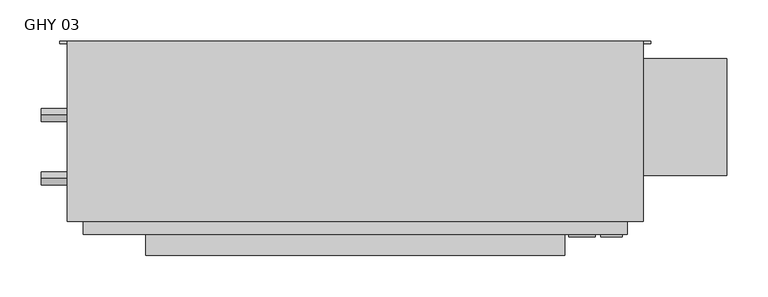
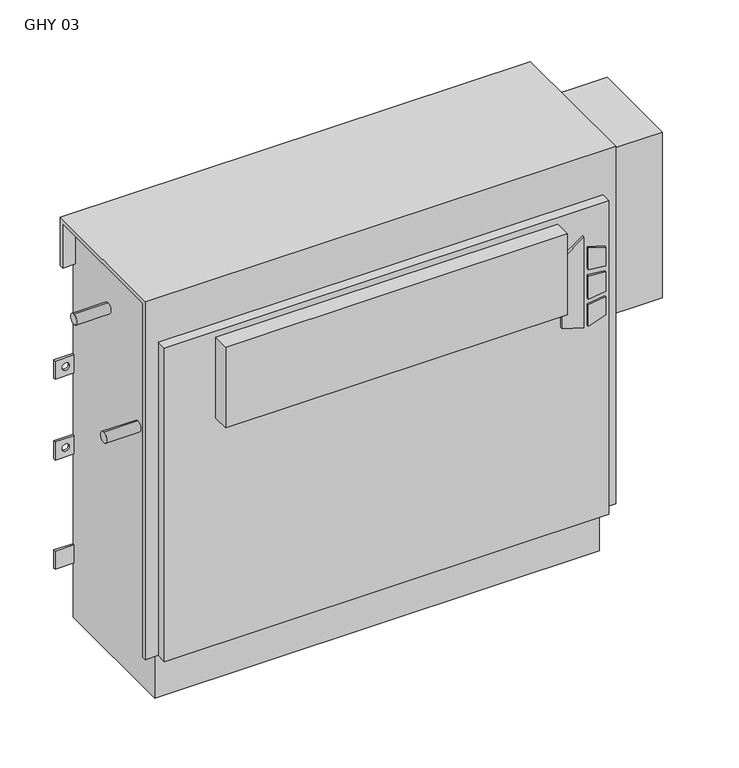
"""IFC4 building model written with IfcOpenShell, lengths in millimetres: proxy geometry, Vertical_Fan_Coil_Unit_-_GHY_-_IEC_-_2-Pipe_FS-FR_LH_2022 : GHY 03."""

from ifc_helpers import new_model, si_unit, point, frame, frame_2d, origin, place, context, project, spatial, polyline, circle_curve, trimmed, segment, composite_curve, outline, extrude, source, transform, mapped, element, save
from ifc_brep_helpers import plane_surface, revolved_surface, advanced_brep


def ghy_03_b27926b6(model_context):
    return source(origin(), model_context, "Body", "SolidModel", [
        extrude(outline(polyline([(391.6086829, 411.2368862), (381.6606126, 443.4102728), (523.831537, 443.4102728), (500.8095309, 411.2368862), (391.6086829, 411.2368862)])), frame((0.0, 6.35, 0.0), z_axis=(0.0, 1.0, 0.0), x_axis=(0.0, 0.0, 1.0)), (0.0, 0.0, 1.0), 3.175),
        extrude(outline(polyline([(470.6079683, 450.1686058), (467.4055757, 476.25), (496.6344168, 476.25), (504.6988318, 450.1686058), (470.6079683, 450.1686058)])), frame((0.0, 6.35, 0.0), z_axis=(0.0, 1.0, 0.0), x_axis=(0.0, 0.0, 1.0)), (0.0, 0.0, 1.0), 3.175),
        extrude(outline(polyline([(418.7444414, 476.25), (415.0789404, 450.1686058), (381.6606126, 450.1686058), (390.2948498, 476.25), (418.7444414, 476.25)])), frame((0.0, 6.35, 0.0), z_axis=(0.0, 1.0, 0.0), x_axis=(0.0, 0.0, 1.0)), (0.0, 0.0, 1.0), 3.175),
        extrude(outline(polyline([(458.0596028, 476.25), (460.3414292, 450.1686058), (424.4038806, 450.1686058), (427.1451456, 476.25), (458.0596028, 476.25)])), frame((0.0, 6.35, 0.0), z_axis=(0.0, 1.0, 0.0), x_axis=(0.0, 0.0, 1.0)), (0.0, 0.0, 1.0), 3.175),
        extrude(outline(polyline([(406.4, -15.875), (-101.6, -15.875), (-101.6, 9.525), (406.4, 9.525), (406.4, -15.875)])), frame((0.0, 0.0, 428.625), z_axis=(0.0, 0.0, 1.0), x_axis=(1.0, 0.0, 0.0)), (0.0, 0.0, 1.0), 127.0),
        extrude(outline(composite_curve([segment(trimmed(circle_curve(frame_2d((77.597, 401.574)), 7.9375), [point((77.597, 409.5115))], [point((77.597, 393.6365))], False, "CARTESIAN"), True, "CONTINUOUS"), segment(trimmed(circle_curve(frame_2d((77.597, 401.574)), 7.9375), [point((77.597, 393.6365))], [point((77.597, 409.5115))], False, "CARTESIAN"), True, "CONTINUOUS")], self_intersect=False)), frame((-228.6, 0.0, 0.0), z_axis=(1.0, 0.0, 0.0), x_axis=(0.0, 1.0, 0.0)), (0.0, 0.0, 1.0), 50.8),
        extrude(outline(composite_curve([segment(trimmed(circle_curve(frame_2d((154.559, 540.512)), 7.9375), [point((154.559, 548.4495))], [point((154.559, 532.5745))], False, "CARTESIAN"), True, "CONTINUOUS"), segment(trimmed(circle_curve(frame_2d((154.559, 540.512)), 7.9375), [point((154.559, 532.5745))], [point((154.559, 548.4495))], False, "CARTESIAN"), True, "CONTINUOUS")], self_intersect=False)), frame((-228.6, 0.0, 0.0), z_axis=(1.0, 0.0, 0.0), x_axis=(0.0, 1.0, 0.0)), (0.0, 0.0, 1.0), 50.8),
        extrude(outline(polyline([(603.25, 223.266), (603.25, 81.534), (482.6, 81.534), (482.6, 223.266), (603.25, 223.266)])), frame((0.0, 0.0, 327.025), z_axis=(0.0, 0.0, 1.0), x_axis=(1.0, 0.0, 0.0)), (0.0, 0.0, 1.0), 260.35),
        advanced_brep(
        [(501.65, 244.475, 635.0), (-196.85, 244.475, 635.0), (-196.85, 25.4, 635.0), (501.65, 25.4, 635.0), (-177.8, 244.475, 0.0), (482.6, 244.475, 0.0), (482.6, 34.925, 0.0), (-177.8, 34.925, 0.0), (501.65, 244.475, 558.8), (482.6, 244.475, 558.8), (482.6, 244.475, 414.3375), (511.175, 244.475, 414.3375), (511.175, 244.475, 385.7625), (482.6, 244.475, 385.7625), (482.6, 244.475, 287.3375), (511.175, 244.475, 287.3375), (511.175, 244.475, 258.7625), (482.6, 244.475, 258.7625), (482.6, 244.475, 141.2875), (511.175, 244.475, 141.2875), (511.175, 244.475, 112.7125), (482.6, 244.475, 112.7125), (-177.8, 244.475, 87.3125), (-206.375, 244.475, 87.3125), (-206.375, 244.475, 115.8875), (-177.8, 244.475, 115.8875), (-177.8, 244.475, 258.7625), (-206.375, 244.475, 258.7625), (-206.375, 244.475, 287.3375), (-177.8, 244.475, 287.3375), (-177.8, 244.475, 385.7625), (-206.375, 244.475, 385.7625), (-206.375, 244.475, 414.3375), (-177.8, 244.475, 414.3375), (-177.8, 244.475, 558.8), (-196.85, 244.475, 558.8), (500.8626, 244.475, 127.0), (489.7374, 244.475, 127.0), (500.8626, 244.475, 273.05), (489.7374, 244.475, 273.05), (-184.9374, 244.475, 273.05), (-196.0626, 244.475, 273.05), (500.8626, 244.475, 400.05), (489.7374, 244.475, 400.05), (-184.9374, 244.475, 400.05), (-196.0626, 244.475, 400.05), (-196.85, 238.125, 558.8), (-196.85, 238.125, 628.65), (-196.85, 31.75, 628.65), (-196.85, 31.75, 73.025), (-196.85, 25.4, 73.025), (482.6, 9.525, 565.15), (-177.8, 9.525, 565.15), (-177.8, 9.525, 73.025), (482.6, 9.525, 73.025), (501.65, 25.4, 73.025), (501.65, 31.75, 73.025), (501.65, 31.75, 628.65), (501.65, 238.125, 628.65), (501.65, 238.125, 558.8), (-177.8, 25.4, 73.025), (-177.8, 25.4, 565.15), (482.6, 25.4, 565.15), (482.6, 25.4, 73.025), (-177.8, 31.75, 73.025), (-177.8, 34.925, 73.025), (482.6, 34.925, 73.025), (482.6, 31.75, 73.025), (482.6, 241.3, 112.7125), (482.6, 241.3, 141.2875), (482.6, 241.3, 258.7625), (482.6, 241.3, 287.3375), (482.6, 241.3, 385.7625), (482.6, 241.3, 414.3375), (482.6, 238.125, 558.8), (482.6, 238.125, 628.65), (482.6, 31.75, 628.65), (-177.8, 31.75, 628.65), (-177.8, 238.125, 628.65), (-177.8, 238.125, 558.8), (-177.8, 241.3, 414.3375), (-177.8, 241.3, 385.7625), (-177.8, 241.3, 287.3375), (-177.8, 241.3, 258.7625), (-177.8, 241.3, 115.8875), (-177.8, 241.3, 87.3125), (511.175, 241.3, 112.7125), (511.175, 241.3, 141.2875), (489.7374, 241.3, 127.0), (500.8626, 241.3, 127.0), (511.175, 241.3, 258.7625), (511.175, 241.3, 287.3375), (489.7374, 241.3, 273.05), (500.8626, 241.3, 273.05), (511.175, 241.3, 385.7625), (511.175, 241.3, 414.3375), (489.7374, 241.3, 400.05), (500.8626, 241.3, 400.05), (-206.375, 241.3, 115.8875), (-206.375, 241.3, 87.3125), (-206.375, 241.3, 287.3375), (-206.375, 241.3, 258.7625), (-196.0626, 241.3, 273.05), (-184.9374, 241.3, 273.05), (-206.375, 241.3, 414.3375), (-206.375, 241.3, 385.7625), (-196.0626, 241.3, 400.05), (-184.9374, 241.3, 400.05)],
        [
            (0, 1),
            (1, 2),
            (2, 3),
            (3, 0),
            (4, 5),
            (5, 6),
            (6, 7),
            (7, 4),
            (0, 8),
            (8, 9),
            (9, 10),
            (10, 11),
            (11, 12),
            (12, 13),
            (13, 14),
            (14, 15),
            (15, 16),
            (16, 17),
            (17, 18),
            (18, 19),
            (19, 20),
            (20, 21),
            (21, 5),
            (4, 22),
            (22, 23),
            (23, 24),
            (24, 25),
            (25, 26),
            (26, 27),
            (27, 28),
            (28, 29),
            (29, 30),
            (30, 31),
            (31, 32),
            (32, 33),
            (33, 34),
            (34, 35),
            (35, 1),
            (36, 37, circle_curve(frame((495.3, 244.475, 127.0), z_axis=(0.0, -1.0, 0.0), x_axis=(-1.0, 0.0, 0.0)), 5.5626)),
            (37, 36, circle_curve(frame((495.3, 244.475, 127.0), z_axis=(0.0, -1.0, 0.0), x_axis=(-1.0, 0.0, 0.0)), 5.5626)),
            (38, 39, circle_curve(frame((495.3, 244.475, 273.05), z_axis=(0.0, -1.0, 0.0), x_axis=(-1.0, 0.0, 0.0)), 5.5626)),
            (39, 38, circle_curve(frame((495.3, 244.475, 273.05), z_axis=(0.0, -1.0, 0.0), x_axis=(-1.0, 0.0, 0.0)), 5.5626)),
            (40, 41, circle_curve(frame((-190.5, 244.475, 273.05), z_axis=(0.0, -1.0, 0.0), x_axis=(-1.0, 0.0, 0.0)), 5.5626)),
            (41, 40, circle_curve(frame((-190.5, 244.475, 273.05), z_axis=(0.0, -1.0, 0.0), x_axis=(-1.0, 0.0, 0.0)), 5.5626)),
            (42, 43, circle_curve(frame((495.3, 244.475, 400.05), z_axis=(0.0, -1.0, 0.0), x_axis=(-1.0, 0.0, 0.0)), 5.5626)),
            (43, 42, circle_curve(frame((495.3, 244.475, 400.05), z_axis=(0.0, -1.0, 0.0), x_axis=(-1.0, 0.0, 0.0)), 5.5626)),
            (44, 45, circle_curve(frame((-190.5, 244.475, 400.05), z_axis=(0.0, -1.0, 0.0), x_axis=(-1.0, 0.0, 0.0)), 5.5626)),
            (45, 44, circle_curve(frame((-190.5, 244.475, 400.05), z_axis=(0.0, -1.0, 0.0), x_axis=(-1.0, 0.0, 0.0)), 5.5626)),
            (35, 46),
            (46, 47),
            (47, 48),
            (48, 49),
            (49, 50),
            (50, 2),
            (51, 52),
            (52, 53),
            (53, 54),
            (54, 51),
            (3, 55),
            (55, 56),
            (56, 57),
            (57, 58),
            (58, 59),
            (59, 8),
            (50, 60),
            (60, 61),
            (61, 62),
            (62, 63),
            (63, 55),
            (51, 62),
            (61, 52),
            (53, 60),
            (49, 64),
            (64, 65),
            (65, 66),
            (66, 67),
            (67, 56),
            (63, 54),
            (6, 66),
            (65, 7),
            (21, 68),
            (68, 69),
            (69, 18),
            (17, 70),
            (70, 71),
            (71, 14),
            (13, 72),
            (72, 73),
            (73, 10),
            (9, 74),
            (74, 75),
            (75, 76),
            (76, 67),
            (64, 77),
            (77, 78),
            (78, 79),
            (79, 34),
            (33, 80),
            (80, 81),
            (81, 30),
            (29, 82),
            (82, 83),
            (83, 26),
            (25, 84),
            (84, 85),
            (85, 22),
            (74, 59),
            (58, 75),
            (76, 57),
            (48, 77),
            (79, 46),
            (78, 47),
            (68, 86),
            (86, 87),
            (87, 69),
            (88, 89, circle_curve(frame((495.3, 241.3, 127.0), z_axis=(0.0, 1.0, 0.0), x_axis=(-1.0, 0.0, 0.0)), 5.5626)),
            (89, 88, circle_curve(frame((495.3, 241.3, 127.0), z_axis=(0.0, 1.0, 0.0), x_axis=(-1.0, 0.0, 0.0)), 5.5626)),
            (90, 91),
            (91, 71),
            (70, 90),
            (92, 93, circle_curve(frame((495.3, 241.3, 273.05), z_axis=(0.0, 1.0, 0.0), x_axis=(-1.0, 0.0, 0.0)), 5.5626)),
            (93, 92, circle_curve(frame((495.3, 241.3, 273.05), z_axis=(0.0, 1.0, 0.0), x_axis=(-1.0, 0.0, 0.0)), 5.5626)),
            (94, 95),
            (95, 73),
            (72, 94),
            (96, 97, circle_curve(frame((495.3, 241.3, 400.05), z_axis=(0.0, 1.0, 0.0), x_axis=(-1.0, 0.0, 0.0)), 5.5626)),
            (97, 96, circle_curve(frame((495.3, 241.3, 400.05), z_axis=(0.0, 1.0, 0.0), x_axis=(-1.0, 0.0, 0.0)), 5.5626)),
            (98, 99),
            (99, 85),
            (84, 98),
            (82, 100),
            (100, 101),
            (101, 83),
            (102, 103, circle_curve(frame((-190.5, 241.3, 273.05), z_axis=(0.0, 1.0, 0.0), x_axis=(-1.0, 0.0, 0.0)), 5.5626)),
            (103, 102, circle_curve(frame((-190.5, 241.3, 273.05), z_axis=(0.0, 1.0, 0.0), x_axis=(-1.0, 0.0, 0.0)), 5.5626)),
            (104, 105),
            (105, 81),
            (80, 104),
            (106, 107, circle_curve(frame((-190.5, 241.3, 400.05), z_axis=(0.0, 1.0, 0.0), x_axis=(-1.0, 0.0, 0.0)), 5.5626)),
            (107, 106, circle_curve(frame((-190.5, 241.3, 400.05), z_axis=(0.0, 1.0, 0.0), x_axis=(-1.0, 0.0, 0.0)), 5.5626)),
            (87, 19),
            (86, 20),
            (16, 90),
            (91, 15),
            (12, 94),
            (95, 11),
            (24, 98),
            (99, 23),
            (101, 27),
            (100, 28),
            (32, 104),
            (105, 31),
            (88, 37),
            (36, 89),
            (92, 39),
            (38, 93),
            (102, 41),
            (40, 103),
            (96, 43),
            (42, 97),
            (106, 45),
            (44, 107),
        ],
        [
            plane_surface(frame((-196.85, 244.475, 635.0), z_axis=(0.0, 0.0, 1.0), x_axis=(-1.0, 0.0, 0.0))),
            plane_surface(frame((-196.85, 244.475, 0.0), z_axis=(0.0, 0.0, -1.0), x_axis=(1.0, 0.0, 0.0))),
            plane_surface(frame((501.65, 244.475, 635.0), z_axis=(0.0, 1.0, 0.0), x_axis=(0.0, 0.0, -1.0))),
            plane_surface(frame((-196.85, 244.475, 635.0), z_axis=(-1.0, 0.0, 0.0), x_axis=(0.0, 0.0, -1.0))),
            plane_surface(frame((-196.85, 9.525, 635.0), z_axis=(0.0, -1.0, 0.0), x_axis=(0.0, 0.0, -1.0))),
            plane_surface(frame((501.65, 9.525, 635.0), z_axis=(1.0, 0.0, 0.0), x_axis=(0.0, 0.0, -1.0))),
            plane_surface(frame((-247.65, 25.4, 635.0), z_axis=(0.0, -1.0, 0.0), x_axis=(1.0, 0.0, 0.0))),
            plane_surface(frame((-247.65, 25.4, 565.15), z_axis=(0.0, 0.0, 1.0), x_axis=(1.0, 0.0, 0.0))),
            plane_surface(frame((-196.85, 9.525, 73.025), z_axis=(0.0, 0.0, -1.0), x_axis=(1.0, 0.0, 0.0))),
            plane_surface(frame((-196.85, 34.925, 73.025), z_axis=(0.0, -1.0, 0.0), x_axis=(1.0, 0.0, 0.0))),
            plane_surface(frame((482.6, 25.4, 73.025), z_axis=(1.0, 0.0, 0.0), x_axis=(0.0, -1.0, 0.0))),
            plane_surface(frame((-177.8, 25.4, 565.15), z_axis=(-1.0, 0.0, 0.0), x_axis=(0.0, -1.0, 0.0))),
            plane_surface(frame((482.6, 244.475, 0.0), z_axis=(1.0, 0.0, 0.0), x_axis=(0.0, -1.0, 0.0))),
            plane_surface(frame((-177.8, 244.475, 73.025), z_axis=(-1.0, 0.0, 0.0), x_axis=(0.0, -1.0, 0.0))),
            plane_surface(frame((482.6, 238.125, 628.65), z_axis=(0.0, -1.0, 0.0), x_axis=(1.0, 0.0, 0.0))),
            plane_surface(frame((482.6, 238.125, 558.8), z_axis=(0.0, 0.0, -1.0), x_axis=(1.0, 0.0, 0.0))),
            plane_surface(frame((482.6, 31.75, 73.025), z_axis=(0.0, 1.0, 0.0), x_axis=(1.0, 0.0, 0.0))),
            plane_surface(frame((482.6, 31.75, 628.65), z_axis=(0.0, 0.0, -1.0), x_axis=(1.0, 0.0, 0.0))),
            plane_surface(frame((-177.8, 31.75, 628.65), z_axis=(0.0, 1.0, 0.0), x_axis=(-1.0, 0.0, 0.0))),
            plane_surface(frame((-177.8, 244.475, 558.8), z_axis=(0.0, 0.0, -1.0), x_axis=(-1.0, 0.0, 0.0))),
            plane_surface(frame((-177.8, 238.125, 558.8), z_axis=(0.0, -1.0, 0.0), x_axis=(-1.0, 0.0, 0.0))),
            plane_surface(frame((-177.8, 238.125, 628.65), z_axis=(0.0, 0.0, -1.0), x_axis=(-1.0, 0.0, 0.0))),
            plane_surface(frame((511.175, 241.3, 141.2875), z_axis=(0.0, -1.0, 0.0), x_axis=(-1.0, 0.0, 0.0))),
            plane_surface(frame((482.6, 244.475, 141.2875), z_axis=(0.0, 0.0, 1.0), x_axis=(0.0, -1.0, 0.0))),
            plane_surface(frame((511.175, 244.475, 141.2875), z_axis=(1.0, 0.0, 0.0), x_axis=(0.0, -1.0, 0.0))),
            plane_surface(frame((511.175, 244.475, 112.7125), z_axis=(0.0, 0.0, -1.0), x_axis=(0.0, -1.0, 0.0))),
            plane_surface(frame((511.175, 244.475, 258.7625), z_axis=(0.0, 0.0, -1.0), x_axis=(0.0, -1.0, 0.0))),
            plane_surface(frame((482.6, 244.475, 287.3375), z_axis=(0.0, 0.0, 1.0), x_axis=(0.0, -1.0, 0.0))),
            plane_surface(frame((511.175, 244.475, 287.3375), z_axis=(1.0, 0.0, 0.0), x_axis=(0.0, -1.0, 0.0))),
            plane_surface(frame((511.175, 244.475, 385.7625), z_axis=(0.0, 0.0, -1.0), x_axis=(0.0, -1.0, 0.0))),
            plane_surface(frame((482.6, 244.475, 414.3375), z_axis=(0.0, 0.0, 1.0), x_axis=(0.0, -1.0, 0.0))),
            plane_surface(frame((511.175, 244.475, 414.3375), z_axis=(1.0, 0.0, 0.0), x_axis=(0.0, -1.0, 0.0))),
            plane_surface(frame((-206.375, 244.475, 115.8875), z_axis=(0.0, 0.0, 1.0), x_axis=(0.0, -1.0, 0.0))),
            plane_surface(frame((-177.8, 244.475, 87.3125), z_axis=(0.0, 0.0, -1.0), x_axis=(0.0, -1.0, 0.0))),
            plane_surface(frame((-206.375, 244.475, 87.3125), z_axis=(-1.0, 0.0, 0.0), x_axis=(0.0, -1.0, 0.0))),
            plane_surface(frame((-177.8, 244.475, 258.7625), z_axis=(0.0, 0.0, -1.0), x_axis=(0.0, -1.0, 0.0))),
            plane_surface(frame((-206.375, 244.475, 258.7625), z_axis=(-1.0, 0.0, 0.0), x_axis=(0.0, -1.0, 0.0))),
            plane_surface(frame((-206.375, 244.475, 287.3375), z_axis=(0.0, 0.0, 1.0), x_axis=(0.0, -1.0, 0.0))),
            plane_surface(frame((-206.375, 244.475, 414.3375), z_axis=(0.0, 0.0, 1.0), x_axis=(0.0, -1.0, 0.0))),
            plane_surface(frame((-177.8, 244.475, 385.7625), z_axis=(0.0, 0.0, -1.0), x_axis=(0.0, -1.0, 0.0))),
            plane_surface(frame((-206.375, 244.475, 385.7625), z_axis=(-1.0, 0.0, 0.0), x_axis=(0.0, -1.0, 0.0))),
            revolved_surface(polyline([(489.73740000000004, 241.3, 127.0), (489.73740000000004, 244.475, 127.0)]), (495.3, 244.475, 127.0), (0.0, -1.0, 0.0)),
            revolved_surface(polyline([(489.73740000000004, 241.3, 273.05), (489.73740000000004, 244.475, 273.05)]), (495.3, 244.475, 273.05), (0.0, -1.0, 0.0)),
            revolved_surface(polyline([(-196.0626, 241.3, 273.05), (-196.0626, 244.475, 273.05)]), (-190.5, 244.475, 273.05), (0.0, -1.0, 0.0)),
            revolved_surface(polyline([(489.73740000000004, 241.3, 400.05), (489.73740000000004, 244.475, 400.05)]), (495.3, 244.475, 400.05), (0.0, -1.0, 0.0)),
            revolved_surface(polyline([(-196.0626, 241.3, 400.05), (-196.0626, 244.475, 400.05)]), (-190.5, 244.475, 400.05), (0.0, -1.0, 0.0)),
        ],
        [
            (0, [[1, 2, 3, 4]]),
            (1, [[5, 6, 7, 8]]),
            (2, [[-1, 9, 10, 11, 12, 13, 14, 15, 16, 17, 18, 19, 20, 21, 22, 23, -5, 24, 25, 26, 27, 28, 29, 30, 31, 32, 33, 34, 35, 36, 37, 38], [39, 40], [41, 42], [43, 44], [45, 46], [47, 48]]),
            (3, [[-2, -38, 49, 50, 51, 52, 53, 54]]),
            (4, [[55, 56, 57, 58]]),
            (5, [[-4, 59, 60, 61, 62, 63, 64, -9]]),
            (6, [[-3, -54, 65, 66, 67, 68, 69, -59]]),
            (7, [[-55, 70, -67, 71]]),
            (8, [[-57, 72, -65, -53, 73, 74, 75, 76, 77, -60, -69, 78]]),
            (9, [[-7, 79, -75, 80]]),
            (10, [[-68, -70, -58, -78]]),
            (11, [[-66, -72, -56, -71]]),
            (12, [[-6, -23, 81, 82, 83, -19, 84, 85, 86, -15, 87, 88, 89, -11, 90, 91, 92, 93, -76, -79]]),
            (13, [[-8, -80, -74, 94, 95, 96, 97, -36, 98, 99, 100, -32, 101, 102, 103, -28, 104, 105, 106, -24]]),
            (14, [[-91, 107, -63, 108]]),
            (15, [[-90, -10, -64, -107]]),
            (16, [[-93, 109, -61, -77]]),
            (17, [[-92, -108, -62, -109]]),
            (18, [[-94, -73, -52, 110]]),
            (19, [[-97, 111, -49, -37]]),
            (20, [[-96, 112, -50, -111]]),
            (21, [[-95, -110, -51, -112]]),
            (22, [[113, 114, 115, -82], [116, 117]]),
            (22, [[118, 119, -85, 120], [121, 122]]),
            (22, [[123, 124, -88, 125], [126, 127]]),
            (22, [[128, 129, -105, 130]]),
            (22, [[131, 132, 133, -102], [134, 135]]),
            (22, [[136, 137, -99, 138], [139, 140]]),
            (23, [[-115, 141, -20, -83]]),
            (24, [[-114, 142, -21, -141]]),
            (25, [[-113, -81, -22, -142]]),
            (26, [[-120, -84, -18, 143]]),
            (27, [[-119, 144, -16, -86]]),
            (28, [[-118, -143, -17, -144]]),
            (29, [[-125, -87, -14, 145]]),
            (30, [[-124, 146, -12, -89]]),
            (31, [[-123, -145, -13, -146]]),
            (32, [[-130, -104, -27, 147]]),
            (33, [[-129, 148, -25, -106]]),
            (34, [[-128, -147, -26, -148]]),
            (35, [[-133, 149, -29, -103]]),
            (36, [[-132, 150, -30, -149]]),
            (37, [[-131, -101, -31, -150]]),
            (38, [[-138, -98, -35, 151]]),
            (39, [[-137, 152, -33, -100]]),
            (40, [[-136, -151, -34, -152]]),
            (41, [[153, -39, 154, -116]]),
            (41, [[-153, -117, -154, -40]]),
            (42, [[155, -41, 156, -121]]),
            (42, [[-155, -122, -156, -42]]),
            (43, [[157, -43, 158, -134]]),
            (43, [[-157, -135, -158, -44]]),
            (44, [[159, -45, 160, -126]]),
            (44, [[-159, -127, -160, -46]]),
            (45, [[161, -47, 162, -139]]),
            (45, [[-161, -140, -162, -48]]),
        ],
    ),
    ])


if __name__ == "__main__":
    model = new_model("IFC4")
    model_context = context("Model", 3, world=origin())
    ifc_project = project(units=[si_unit("LENGTHUNIT", "METRE", prefix="MILLI")], contexts=[model_context])
    site = spatial("IfcSite", under=ifc_project)
    building = spatial("IfcBuilding", under=site)
    placement = place(None, origin())
    ghy_03_shape = ghy_03_b27926b6(model_context)
    element("IfcBuildingElementProxy", 1, Name="Vertical_Fan_Coil_Unit_-_GHY_-_IEC_-_2-Pipe_FS-FR_LH_2022 : GHY 03", ObjectType="Vertical_Fan_Coil_Unit_-_GHY_-_IEC_-_2-Pipe_FS-FR_LH_2022 : GHY 03", at=placement, inside=building, context=model_context, shape_type="MappedRepresentation", body=[
        mapped(ghy_03_shape, transform((0.0, 0.0, 0.0), x_axis=(1.0, 0.0, 0.0), y_axis=(0.0, 1.0, 0.0), z_axis=(0.0, 0.0, 1.0))),
    ])
    save(model, "model.ifc")
